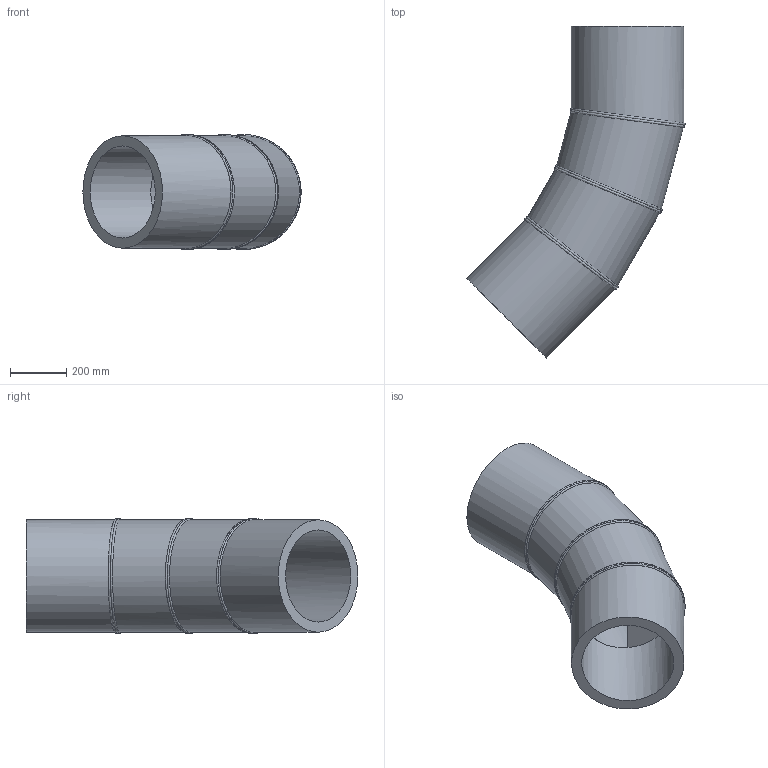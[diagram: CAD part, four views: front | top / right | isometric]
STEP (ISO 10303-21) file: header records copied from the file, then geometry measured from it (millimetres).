
FILE_DESCRIPTION(/* description */ ('Unknown'),/* implementation_level */ '2;1');
FILE_NAME(/* name */ 'Curva 45° a settore DE400 SDR11',/* time_stamp */ '2022-07-26T09:26:55+02:00',/* author */ ('Unknown'),/* organization */ ('Unknown'),/* preprocessor_version */ 'ST-DEVELOPER v18.102',/* originating_system */ 'Solid Edge',/* authorisation */ 'Unknown');
FILE_SCHEMA (('AUTOMOTIVE_DESIGN {1 0 10303 214 3 1 1}'));
Length unit declared in the file: millimetre
Products named in the file (3): Curva 45° a settore DE400 SDR11; Tubo x Gomito 45° DE400 SDR11 - 1; Tubo x Gomito 45° DE400 SDR11 - 2
Assembly tree (4 placements, depth 2):
  Curva 45° a settore DE400 SDR11
    Tubo x Gomito 45° DE400 SDR11 - 1  x2
    Tubo x Gomito 45° DE400 SDR11 - 2  x2
Bounding box: 775.48 x 1179.68 x 407.99 mm (x, y, z)
Volume: 49048484.6 mm3; surface area: 3061630 mm2
Topology: 4 solids, 4 shells, 34 faces, 74 edges, 48 vertices
Faces by surface type: cylinder 20, plane 8, bspline 6
Full cylindrical faces by diameter (mm): 327.4 x4, 400 x4
Entity records: 2384 total; most frequent: CARTESIAN_POINT 1982, DIRECTION 72, ORIENTED_EDGE 52, AXIS2_PLACEMENT_3D 36, EDGE_LOOP 28, FACE_BOUND 28, EDGE_CURVE 26, VERTEX_POINT 20
